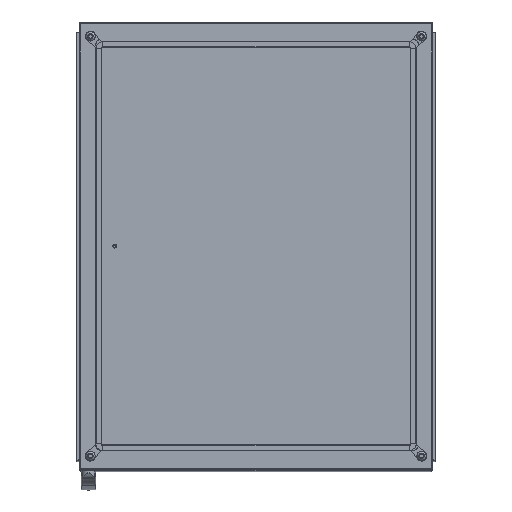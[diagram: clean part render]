
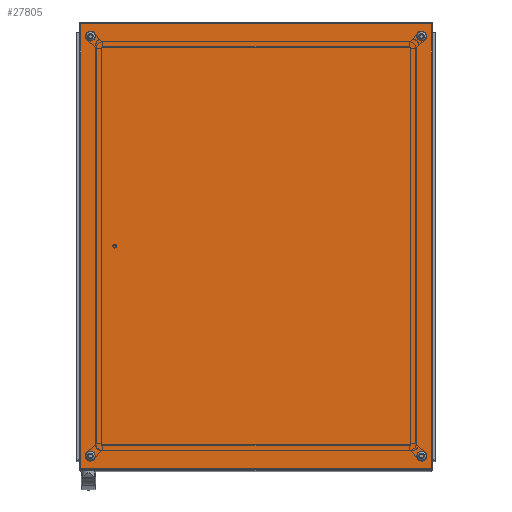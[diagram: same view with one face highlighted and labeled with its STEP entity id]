
A CAD part, top view. The second image highlights one B-rep face of the part: STEP entity #27805.
In plain terms, the highlighted planar face has unit normal (0, 0, 1).
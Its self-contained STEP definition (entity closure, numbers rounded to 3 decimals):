
#1379=CIRCLE('',#29850,6.);
#1380=CIRCLE('',#29851,6.);
#1381=CIRCLE('',#29852,6.);
#1382=CIRCLE('',#29853,6.);
#5191=ORIENTED_EDGE('',*,*,#11825,.F.);
#5192=ORIENTED_EDGE('',*,*,#11826,.F.);
#5193=ORIENTED_EDGE('',*,*,#11827,.F.);
#5194=ORIENTED_EDGE('',*,*,#11828,.F.);
#5195=ORIENTED_EDGE('',*,*,#11814,.T.);
#5196=ORIENTED_EDGE('',*,*,#11822,.T.);
#5197=ORIENTED_EDGE('',*,*,#11785,.F.);
#5198=ORIENTED_EDGE('',*,*,#11829,.F.);
#11785=EDGE_CURVE('',#15337,#15338,#18113,.T.);
#11814=EDGE_CURVE('',#15359,#15358,#18119,.T.);
#11822=EDGE_CURVE('',#15358,#15338,#18124,.T.);
#11825=EDGE_CURVE('',#15360,#15360,#1379,.T.);
#11826=EDGE_CURVE('',#15361,#15361,#1380,.T.);
#11827=EDGE_CURVE('',#15362,#15362,#1381,.T.);
#11828=EDGE_CURVE('',#15363,#15363,#1382,.T.);
#11829=EDGE_CURVE('',#15359,#15337,#18127,.T.);
#15337=VERTEX_POINT('',#43357);
#15338=VERTEX_POINT('',#43359);
#15358=VERTEX_POINT('',#43433);
#15359=VERTEX_POINT('',#43435);
#15360=VERTEX_POINT('',#43452);
#15361=VERTEX_POINT('',#43454);
#15362=VERTEX_POINT('',#43456);
#15363=VERTEX_POINT('',#43458);
#18113=LINE('',#43358,#20522);
#18119=LINE('',#43434,#20528);
#18124=LINE('',#43446,#20533);
#18127=LINE('',#43459,#20536);
#20522=VECTOR('',#34738,1000.);
#20528=VECTOR('',#34792,1000.);
#20533=VECTOR('',#34809,1000.);
#20536=VECTOR('',#34824,1000.);
#22629=EDGE_LOOP('',(#5191));
#22630=EDGE_LOOP('',(#5192));
#22631=EDGE_LOOP('',(#5193));
#22632=EDGE_LOOP('',(#5194));
#22633=EDGE_LOOP('',(#5195,#5196,#5197,#5198));
#24924=FACE_BOUND('',#22629,.T.);
#24925=FACE_BOUND('',#22630,.T.);
#24926=FACE_BOUND('',#22631,.T.);
#24927=FACE_BOUND('',#22632,.T.);
#24928=FACE_BOUND('',#22633,.T.);
#26876=PLANE('',#29849);
#27805=ADVANCED_FACE('',(#24924,#24925,#24926,#24927,#24928),#26876,.T.);
#29849=AXIS2_PLACEMENT_3D('',#43450,#34814,#34815);
#29850=AXIS2_PLACEMENT_3D('',#43451,#34816,#34817);
#29851=AXIS2_PLACEMENT_3D('',#43453,#34818,#34819);
#29852=AXIS2_PLACEMENT_3D('',#43455,#34820,#34821);
#29853=AXIS2_PLACEMENT_3D('',#43457,#34822,#34823);
#34738=DIRECTION('',(-1.,0.,0.));
#34792=DIRECTION('',(-1.,0.,0.));
#34809=DIRECTION('',(0.,-1.,0.));
#34814=DIRECTION('',(0.,0.,1.));
#34815=DIRECTION('',(1.,0.,0.));
#34816=DIRECTION('',(0.,0.,1.));
#34817=DIRECTION('',(1.,0.,0.));
#34818=DIRECTION('',(0.,0.,1.));
#34819=DIRECTION('',(1.,0.,0.));
#34820=DIRECTION('',(0.,0.,1.));
#34821=DIRECTION('',(1.,0.,0.));
#34822=DIRECTION('',(0.,0.,1.));
#34823=DIRECTION('',(1.,0.,0.));
#34824=DIRECTION('',(0.,-1.,0.));
#43357=CARTESIAN_POINT('',(396.5,-502.5,20.));
#43358=CARTESIAN_POINT('',(400.,-502.5,20.));
#43359=CARTESIAN_POINT('',(-396.5,-502.5,20.));
#43433=CARTESIAN_POINT('',(-396.5,502.5,20.));
#43434=CARTESIAN_POINT('',(400.,502.5,20.));
#43435=CARTESIAN_POINT('',(396.5,502.5,20.));
#43446=CARTESIAN_POINT('',(-396.5,505.5,20.));
#43450=CARTESIAN_POINT('',(-396.5,-502.5,20.));
#43451=CARTESIAN_POINT('',(374.5,-474.5,20.));
#43452=CARTESIAN_POINT('',(380.5,-474.5,20.));
#43453=CARTESIAN_POINT('',(-374.5,474.5,20.));
#43454=CARTESIAN_POINT('',(-368.5,474.5,20.));
#43455=CARTESIAN_POINT('',(374.5,474.5,20.));
#43456=CARTESIAN_POINT('',(380.5,474.5,20.));
#43457=CARTESIAN_POINT('',(-374.5,-474.5,20.));
#43458=CARTESIAN_POINT('',(-368.5,-474.5,20.));
#43459=CARTESIAN_POINT('',(396.5,505.5,20.));
